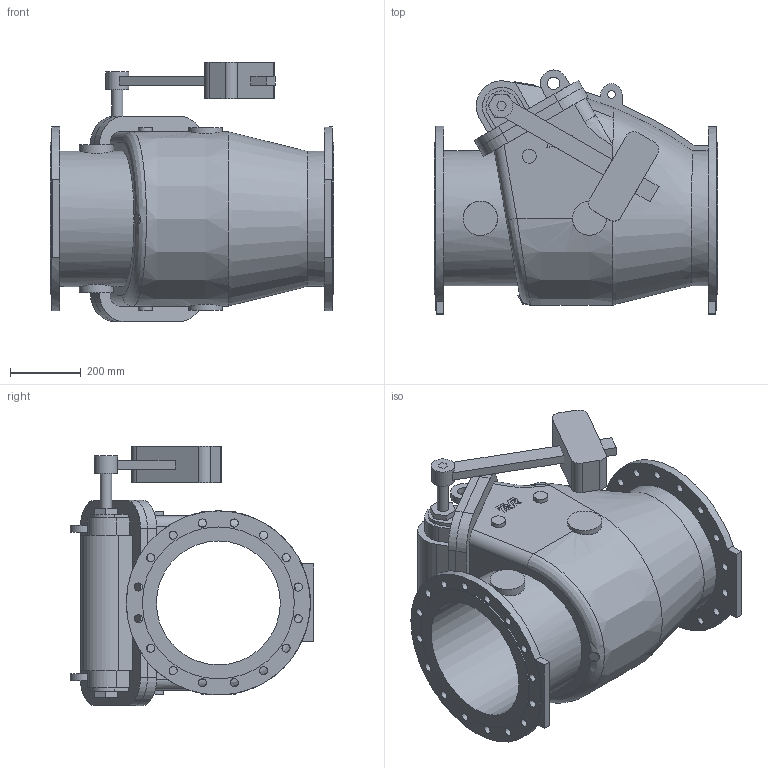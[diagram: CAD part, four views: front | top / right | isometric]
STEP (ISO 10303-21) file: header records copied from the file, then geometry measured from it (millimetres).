
FILE_DESCRIPTION (( 'STEP AP203' ), '1' );
FILE_NAME ('O_41_36_DN350_X0XXX_AA1.step', '2018-08-16T08:29:48', ( 'Windows User' ), ( 'AVK' ), 'SwSTEP 2.0', 'SolidWorks 2012', '' );
FILE_SCHEMA (( 'CONFIG_CONTROL_DESIGN' ));
Length unit declared in the file: millimetre
Products named in the file (1): O_41_36_DN350_X0XXX_AA1
Bounding box: 800 x 688.73 x 732 mm (x, y, z)
Volume: 90998498.5 mm3; surface area: 3251990.1 mm2
Topology: 1 solids, 1 shells, 314 faces, 850 edges, 570 vertices
Faces by surface type: plane 218, cylinder 85, bspline 11
Full cylindrical faces by diameter (mm): 22 x1, 23 x32, 30 x1, 32 x1, 35 x2, 40 x4, 65 x1, 96 x2, 97 x2, 350 x1, 382 x1, 429 x2, 520 x2
Entity records: 29063 total; most frequent: CARTESIAN_POINT 21265, ORIENTED_EDGE 1544, DIRECTION 1493, EDGE_CURVE 772, LINE 559, VECTOR 559, VERTEX_POINT 545, EDGE_LOOP 473
